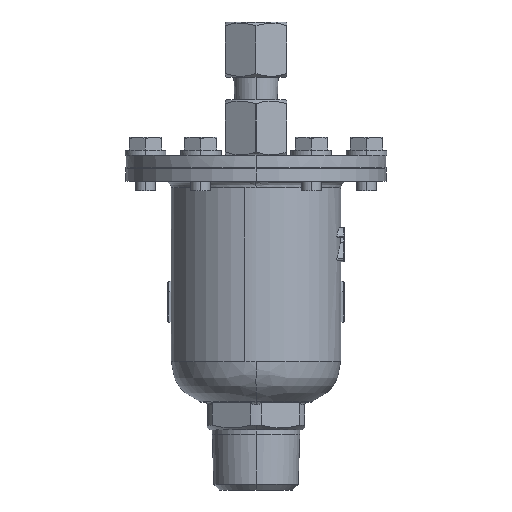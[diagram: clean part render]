
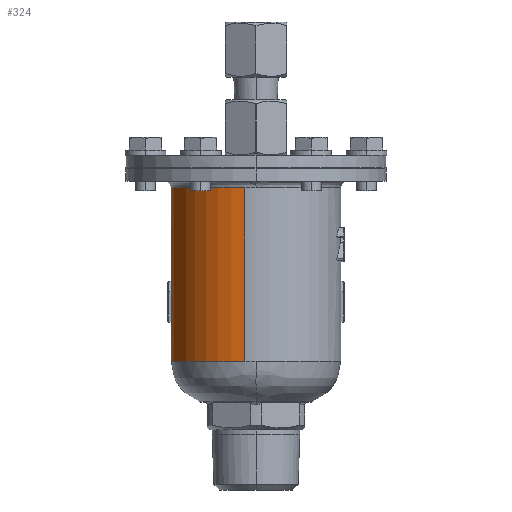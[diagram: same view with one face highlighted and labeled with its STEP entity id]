
A CAD part, left-side view. The second image highlights one B-rep face of the part: STEP entity #324.
In plain terms, the highlighted cylindrical face has radius 26.1 mm (diameter 52.2 mm), a partial arc.
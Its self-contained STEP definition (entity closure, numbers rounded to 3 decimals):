
#324=ADVANCED_FACE('',(#3218,#3219),#3217,.T.);
#3217=CYLINDRICAL_SURFACE('',#5972,26.1);
#3218=FACE_OUTER_BOUND('',#5973,.T.);
#3219=FACE_BOUND('',#5974,.T.);
#5969=CARTESIAN_POINT('',(0.,0.,0.));
#5970=DIRECTION('',(0.,0.,1.));
#5971=DIRECTION('',(-0.991,0.131,0.));
#5972=AXIS2_PLACEMENT_3D('',#5969,#5970,#5971);
#5973=EDGE_LOOP('',(#7690,#7691,#7692,#7693,#7694,#7695));
#5974=EDGE_LOOP('',(#7696,#7697,#7698,#7699,#7700,#7701,#7702));
#7690=ORIENTED_EDGE('',*,*,#8555,.F.);
#7691=ORIENTED_EDGE('',*,*,#8559,.F.);
#7692=ORIENTED_EDGE('',*,*,#8600,.T.);
#7693=ORIENTED_EDGE('',*,*,#8552,.T.);
#7694=ORIENTED_EDGE('',*,*,#8549,.T.);
#7695=ORIENTED_EDGE('',*,*,#8601,.F.);
#7696=ORIENTED_EDGE('',*,*,#7964,.T.);
#7697=ORIENTED_EDGE('',*,*,#7965,.T.);
#7698=ORIENTED_EDGE('',*,*,#7954,.T.);
#7699=ORIENTED_EDGE('',*,*,#7956,.T.);
#7700=ORIENTED_EDGE('',*,*,#7958,.T.);
#7701=ORIENTED_EDGE('',*,*,#7960,.T.);
#7702=ORIENTED_EDGE('',*,*,#7962,.T.);
#7954=EDGE_CURVE('',#9300,#9307,#9314,.T.);
#7956=EDGE_CURVE('',#9307,#9320,#9327,.T.);
#7958=EDGE_CURVE('',#9320,#9333,#9340,.T.);
#7960=EDGE_CURVE('',#9333,#9346,#9353,.T.);
#7962=EDGE_CURVE('',#9346,#9359,#9366,.T.);
#7964=EDGE_CURVE('',#9359,#9372,#9379,.T.);
#7965=EDGE_CURVE('',#9372,#9300,#9385,.T.);
#8549=EDGE_CURVE('',#13283,#13275,#13284,.T.);
#8552=EDGE_CURVE('',#13302,#13283,#13303,.T.);
#8555=EDGE_CURVE('',#13315,#13322,#13323,.T.);
#8559=EDGE_CURVE('',#13342,#13315,#13349,.T.);
#8600=EDGE_CURVE('',#13342,#13302,#13601,.T.);
#8601=EDGE_CURVE('',#13322,#13275,#13607,.T.);
#9300=VERTEX_POINT('',#14413);
#9307=VERTEX_POINT('',#14417);
#9314=LINE('',#14421,#14422);
#9320=VERTEX_POINT('',#14424);
#9327=CIRCLE('',#14431,26.1);
#9333=VERTEX_POINT('',#14432);
#9340=LINE('',#14436,#14437);
#9346=VERTEX_POINT('',#14439);
#9353=CIRCLE('',#14446,26.1);
#9359=VERTEX_POINT('',#14447);
#9366=(BOUNDED_CURVE() B_SPLINE_CURVE(2,(#14451,#14452,#14453),.UNSPECIFIED.,.F.,.F.) B_SPLINE_CURVE_WITH_KNOTS((3,3),(1.511,1.571),.UNSPECIFIED.) CURVE() GEOMETRIC_REPRESENTATION_ITEM() RATIONAL_B_SPLINE_CURVE((1.,1.,1.)) REPRESENTATION_ITEM('') );
#9372=VERTEX_POINT('',#14454);
#9379=(BOUNDED_CURVE() B_SPLINE_CURVE(2,(#14458,#14459,#14460),.UNSPECIFIED.,.F.,.F.) B_SPLINE_CURVE_WITH_KNOTS((3,3),(4.712,4.772),.UNSPECIFIED.) CURVE() GEOMETRIC_REPRESENTATION_ITEM() RATIONAL_B_SPLINE_CURVE((1.,1.,1.)) REPRESENTATION_ITEM('') );
#9385=CIRCLE('',#14464,26.1);
#13275=VERTEX_POINT('',#17832);
#13283=VERTEX_POINT('',#17838);
#13284=CIRCLE('',#17842,26.1);
#13302=VERTEX_POINT('',#17849);
#13303=CIRCLE('',#17853,26.1);
#13315=VERTEX_POINT('',#17858);
#13322=VERTEX_POINT('',#17862);
#13323=CIRCLE('',#17866,26.1);
#13342=VERTEX_POINT('',#17875);
#13349=CIRCLE('',#17883,26.1);
#13601=(BOUNDED_CURVE() B_SPLINE_CURVE(1,(#17984,#17985),.UNSPECIFIED.,.F.,.F.) B_SPLINE_CURVE_WITH_KNOTS((2,2),(0.083,0.917),.UNSPECIFIED.) CURVE() GEOMETRIC_REPRESENTATION_ITEM() RATIONAL_B_SPLINE_CURVE((1.,1.)) REPRESENTATION_ITEM('') );
#13607=(BOUNDED_CURVE() B_SPLINE_CURVE(1,(#17986,#17987),.UNSPECIFIED.,.F.,.F.) B_SPLINE_CURVE_WITH_KNOTS((2,2),(0.083,0.917),.UNSPECIFIED.) CURVE() GEOMETRIC_REPRESENTATION_ITEM() RATIONAL_B_SPLINE_CURVE((0.75,0.75)) REPRESENTATION_ITEM('') );
#14413=CARTESIAN_POINT('',(-0.625,26.093,61.034));
#14417=CARTESIAN_POINT('',(-0.625,26.093,51.659));
#14421=CARTESIAN_POINT('',(-0.625,26.093,61.034));
#14422=VECTOR('',#14423,9.375);
#14423=DIRECTION('',(0.,0.,-1.));
#14424=CARTESIAN_POINT('',(0.625,26.093,51.659));
#14428=CARTESIAN_POINT('',(0.,0.,51.659));
#14429=DIRECTION('',(0.,0.,-1.));
#14430=DIRECTION('',(1.,0.,0.));
#14431=AXIS2_PLACEMENT_3D('',#14428,#14429,#14430);
#14432=CARTESIAN_POINT('',(0.625,26.093,61.034));
#14436=CARTESIAN_POINT('',(0.625,26.093,51.659));
#14437=VECTOR('',#14438,9.375);
#14438=DIRECTION('',(0.,0.,1.));
#14439=CARTESIAN_POINT('',(1.562,26.053,61.034));
#14443=CARTESIAN_POINT('',(0.,0.,61.034));
#14444=DIRECTION('',(0.,0.,-1.));
#14445=DIRECTION('',(1.,0.,0.));
#14446=AXIS2_PLACEMENT_3D('',#14443,#14444,#14445);
#14447=CARTESIAN_POINT('',(0.,26.1,64.159));
#14451=CARTESIAN_POINT('',(1.562,26.053,61.034));
#14452=CARTESIAN_POINT('',(0.782,26.1,62.595));
#14453=CARTESIAN_POINT('',(0.,26.1,64.159));
#14454=CARTESIAN_POINT('',(-1.562,26.053,61.034));
#14458=CARTESIAN_POINT('',(0.,26.1,64.159));
#14459=CARTESIAN_POINT('',(-0.782,26.1,62.595));
#14460=CARTESIAN_POINT('',(-1.562,26.053,61.034));
#14461=CARTESIAN_POINT('',(0.,0.,61.034));
#14462=DIRECTION('',(0.,0.,-1.));
#14463=DIRECTION('',(1.,0.,0.));
#14464=AXIS2_PLACEMENT_3D('',#14461,#14462,#14463);
#17832=CARTESIAN_POINT('',(25.876,-3.409,93.));
#17838=CARTESIAN_POINT('',(26.1,0.,93.));
#17839=CARTESIAN_POINT('',(0.,0.,93.));
#17840=DIRECTION('',(0.,0.,-1.));
#17841=DIRECTION('',(-1.,0.,0.));
#17842=AXIS2_PLACEMENT_3D('',#17839,#17840,#17841);
#17849=CARTESIAN_POINT('',(-25.877,3.407,93.));
#17850=CARTESIAN_POINT('',(0.,0.,93.));
#17851=DIRECTION('',(0.,0.,-1.));
#17852=DIRECTION('',(-1.,0.,0.));
#17853=AXIS2_PLACEMENT_3D('',#17850,#17851,#17852);
#17858=CARTESIAN_POINT('',(26.1,0.,39.5));
#17862=CARTESIAN_POINT('',(25.876,-3.409,39.5));
#17863=CARTESIAN_POINT('',(0.,0.,39.5));
#17864=DIRECTION('',(0.,0.,-1.));
#17865=DIRECTION('',(-1.,0.,0.));
#17866=AXIS2_PLACEMENT_3D('',#17863,#17864,#17865);
#17875=CARTESIAN_POINT('',(-25.877,3.407,39.5));
#17880=CARTESIAN_POINT('',(0.,0.,39.5));
#17881=DIRECTION('',(0.,0.,-1.));
#17882=DIRECTION('',(-1.,0.,0.));
#17883=AXIS2_PLACEMENT_3D('',#17880,#17881,#17882);
#17984=CARTESIAN_POINT('',(-25.877,3.407,39.5));
#17985=CARTESIAN_POINT('',(-25.877,3.407,93.));
#17986=CARTESIAN_POINT('',(25.877,-3.407,39.5));
#17987=CARTESIAN_POINT('',(25.877,-3.407,93.));
